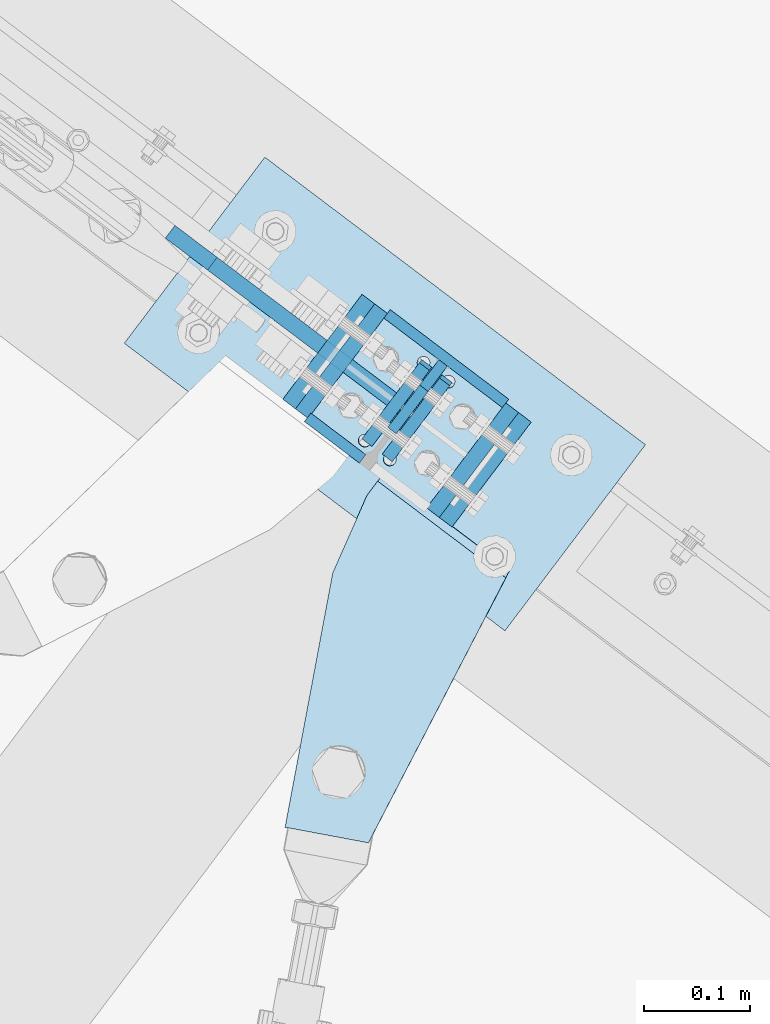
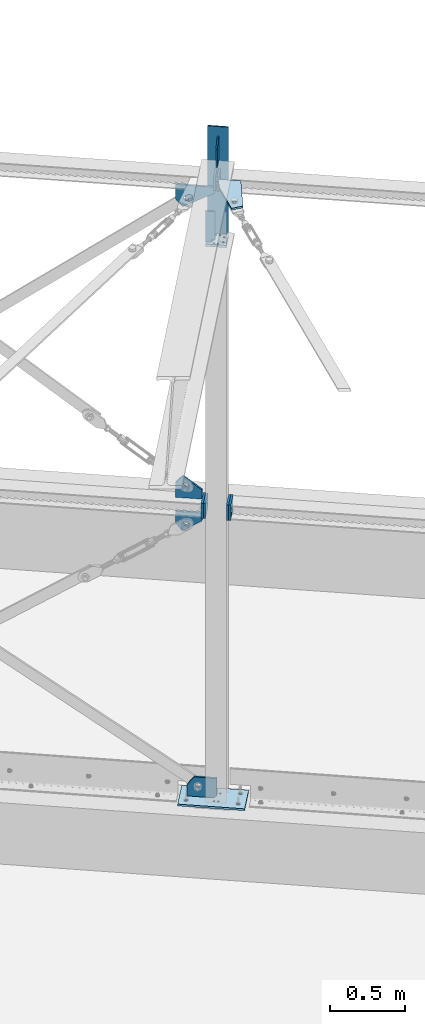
# One storey, part 68 of 476: 16 plates, 56 openings.
"""IFC2X3 building model written with IfcOpenShell, lengths in millimetres."""

from ifc_helpers import new_model, entity, si_unit, converted_unit, point, frame, frame_2d, origin, origin_with_axes, origin_2d_with_axis, place, context, project, spatial, polyline, circle_curve, line_curve, trimmed, segment, composite_curve, circle, outline, extrude, material, layer, layer_set, element, save


model = new_model("IFC2X3")

# Units and contexts
model_context = context("Model", 3, precision=1e-09, world=origin_with_axes())
ifc_project = project(units=[si_unit("LENGTHUNIT", "METRE", prefix="MILLI"), si_unit("AREAUNIT", "SQUARE_METRE"), si_unit("VOLUMEUNIT", "CUBIC_METRE"), converted_unit("PLANEANGLEUNIT", "DEGREE", entity("IfcPlaneAngleMeasure", 0.01745329), si_unit("PLANEANGLEUNIT", "RADIAN"), dimensions=[0, 0, 0, 0, 0, 0, 0])], contexts=[model_context])

# Site, building, storey
site_placement = place(None, origin_with_axes())
site = spatial("IfcSite", under=ifc_project, at=site_placement, Name="mKR Teilneubau & Sanierung BA1 - Ostfildern", CompositionType="ELEMENT")
building_placement = place(site_placement, origin_with_axes())
building = spatial("IfcBuilding", under=site, at=building_placement, Name="Struktur 1", CompositionType="ELEMENT")
storey_placement = place(building_placement, origin_with_axes())
storey = spatial("IfcBuildingStorey", under=building, at=storey_placement, Name="Default Storey", CompositionType="ELEMENT", Elevation=0.0)

# Plate, openings
ifc_material = material(Name="S235JR")
ifc_layer_1 = layer(ifc_material, 15.0)
ifc_layer_set_1 = layer_set([ifc_layer_1], Name="S235JR")
plate_1_placement = place(None, frame((16460.531467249, 5002.855324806, 5627.057972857), z_axis=(-0.018098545, -0.02396011, 0.999549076), x_axis=(-0.602462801, -0.797581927, -0.030027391)))
plate_1 = element("IfcPlate", 1, at=plate_1_placement, inside=storey, material=ifc_layer_set_1, Name="-", ObjectType="-", context=model_context, shape_type="SweptSolid", body=[
    extrude(outline(polyline([(0.0, 0.0), (65.954896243, 0.0), (321.261469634, 127.050274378), (285.61998654, 198.672036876), (1.572e-05, 149.999963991), (0.0, 0.0)])), origin_with_axes(), (0.0, 0.0, -1.0), 15.0),
])
opening_1_placement = place(plate_1_placement, frame((65.954896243, 0.0, 0.01), z_axis=(0.0, 0.0, 1.0), x_axis=(0.895271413, 0.445521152, 0.0)))
element("IfcOpeningElement", 2, at=opening_1_placement, cuts=plate_1, ObjectType="Opening", context=model_context, shape_type="SweptSolid", body=[
    extrude(outline(composite_curve([segment(trimmed(line_curve((0.0, 0.0), (1.0, 0.0), 41.13722238), [point((0.0, 0.0))], [point((41.13722238, 0.0))], True, "CARTESIAN"), True, "CONTINUOUS"), segment(trimmed(circle_curve(frame_2d((41.13722238, 175.0), x_axis=(-1.0, 0.0)), 175.0), [point((41.13722238, 0.0))], [point((-36.828979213, 18.327502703))], False, "CARTESIAN"), True, "CONTINUOUS"), segment(trimmed(line_curve((-36.828979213, 18.327502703), (0.895271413, -0.445521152), 41.13722238), [point((-36.828979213, 18.327502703))], [point((0.0, 0.0))], True, "CARTESIAN"), True, "CONTINUOUS")], self_intersect=False)), origin(), (0.0, 0.0, -1.0), 15.02),
])
opening_2_placement = place(plate_1_placement, frame((0.0, -0.000999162, 0.0), z_axis=(1.05e-07, 1.0, 0.0), x_axis=(1.0, -1.05e-07, 0.0)))
element("IfcOpeningElement", 3, at=opening_2_placement, cuts=plate_1, ObjectType="Opening", context=model_context, shape_type="SweptSolid", body=[
    extrude(outline(polyline([(0.0, 0.0), (8.0, 0.0), (0.0, 8.0), (0.0, 0.0)])), origin(), (0.0, 0.0, 1.0), 151.385232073),
])
opening_3_placement = place(plate_1_placement, frame((236.742211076, 129.669420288, -15.500002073), z_axis=(1.1668e-05, 5.806e-06, -1.0), x_axis=(-1.0, 0.0, -1.1668e-05)))
element("IfcOpeningElement", 4, at=opening_3_placement, cuts=plate_1, ObjectType="Opening", context=model_context, shape_type="SweptSolid", body=[
    extrude(circle(Radius=14.501, at=frame_2d((-12.982331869, 6.460499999), x_axis=(1.0, 0.0))), origin(), (0.0, 0.0, -1.0), 16.000000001),
])

plate_2_placement = place(None, frame((16471.982495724, 5080.903557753, 545.0), z_axis=(0.602734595, 0.797941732, 0.0), x_axis=(-0.797941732, 0.602734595, 0.0)))
plate_2 = element("IfcPlate", 5, at=plate_2_placement, inside=storey, material=ifc_layer_set_1, Name="-", ObjectType="-", context=model_context, shape_type="SweptSolid", body=[
    extrude(outline(polyline([(-17.154112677, 0.0), (179.999993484, 0.0), (179.999993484, 93.164694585), (133.615277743, 158.344892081), (-17.154119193, 158.344891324), (-17.154112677, 0.0)])), origin_with_axes(), (0.0, 0.0, -1.0), 15.0),
])
opening_4_placement = place(plate_2_placement, frame((91.921483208, 90.966259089, -15.5), z_axis=(0.0, 0.0, -1.0), x_axis=(-1.0, 0.0, 0.0)))
element("IfcOpeningElement", 6, at=opening_4_placement, cuts=plate_2, ObjectType="Opening", context=model_context, shape_type="SweptSolid", body=[
    extrude(circle(Radius=16.001, at=frame_2d((-16.001, 0.0), x_axis=(1.0, 0.0))), origin(), (0.0, 0.0, -1.0), 16.0),
])
opening_5_placement = place(plate_2_placement, frame((-17.154112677, 0.0, 0.01), z_axis=(0.0, 0.0, 1.0), x_axis=(1.0, 0.0, 0.0)))
element("IfcOpeningElement", 7, at=opening_5_placement, cuts=plate_2, ObjectType="Opening", context=model_context, shape_type="SweptSolid", body=[
    extrude(outline(polyline([(0.0, 0.0), (20.0, 0.0), (-8.23e-07, 20.0), (0.0, 0.0)])), origin(), (0.0, 0.0, -1.0), 15.02),
])

# Plate, opening
plate_3_placement = place(None, frame((16399.028819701, 5117.211602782, 5514.988683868), z_axis=(-0.602734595, -0.797941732, 0.0), x_axis=(-0.797941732, 0.602734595, 0.0)))
plate_3 = element("IfcPlate", 8, at=plate_3_placement, inside=storey, material=ifc_layer_set_1, Name="-", ObjectType="-", context=model_context, shape_type="SweptSolid", body=[
    extrude(outline(polyline([(-82.000010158, 0.0), (179.999993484, 0.0), (179.999993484, 115.705558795), (130.034880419, 178.183457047), (-82.000010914, 50.0), (-82.000010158, 0.0)])), origin_with_axes(), (0.0, 0.0, -1.0), 15.0),
])
opening_6_placement = place(plate_3_placement, frame((92.158013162, 109.47067545, 0.5), z_axis=(0.0, 0.0, 1.0), x_axis=(1.0, 0.0, 0.0)))
element("IfcOpeningElement", 9, at=opening_6_placement, cuts=plate_3, ObjectType="Opening", context=model_context, shape_type="SweptSolid", body=[
    extrude(circle(Radius=16.001, at=frame_2d((16.001, 0.0), x_axis=(1.0, 0.0))), origin(), (0.0, 0.0, -1.0), 16.0),
])

# Plate, openings
ifc_layer_2 = layer(ifc_material, 10.0)
ifc_layer_set_2 = layer_set([ifc_layer_2], Name="S235JR")
plate_4_placement = place(None, frame((16473.169797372, 5041.156852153, 5888.279672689), z_axis=(-0.797941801, 0.602734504, 0.0), x_axis=(0.602734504, 0.797941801, 0.0)))
plate_4 = element("IfcPlate", 10, at=plate_4_placement, inside=storey, material=ifc_layer_set_2, Name="-", ObjectType="-", context=model_context, shape_type="SweptSolid", body=[
    extrude(outline(polyline([(0.0, 0.0), (80.0, 0.0), (80.0, 197.595559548), (0.0, 200.0), (0.0, 0.0)])), origin_with_axes(), (0.0, 0.0, 1.0), 10.0),
])
opening_7_placement = place(plate_4_placement, frame((0.0, 0.0, -0.01), z_axis=(0.0, 0.0, 1.0), x_axis=(1.0, 0.0, 0.0)))
element("IfcOpeningElement", 11, at=opening_7_placement, cuts=plate_4, ObjectType="Opening", context=model_context, shape_type="SweptSolid", body=[
    extrude(outline(polyline([(0.0, 0.0), (50.0, 0.0), (0.0, 50.0), (0.0, 0.0)])), origin(), (0.0, 0.0, 1.0), 10.02),
])
opening_8_placement = place(plate_4_placement, frame((0.0, 0.0, -0.01), z_axis=(0.0, 0.0, 1.0), x_axis=(1.0, 0.0, 0.0)))
element("IfcOpeningElement", 12, at=opening_8_placement, cuts=plate_4, ObjectType="Opening", context=model_context, shape_type="SweptSolid", body=[
    extrude(outline(polyline([(80.0, 197.595559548), (60.009027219, 198.196398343), (80.0, 177.595559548), (80.0, 197.595559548)])), origin(), (0.0, 0.0, 1.0), 10.02),
])

# Plate, opening
plate_5_placement = place(None, frame((16408.069838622, 5129.180728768, 2855.000000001), z_axis=(-0.602734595, -0.797941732, 0.0), x_axis=(-0.797941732, 0.602734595, 0.0)))
plate_5 = element("IfcPlate", 13, at=plate_5_placement, inside=storey, material=ifc_layer_set_1, Name="-", ObjectType="-", context=model_context, shape_type="SweptSolid", body=[
    extrude(outline(polyline([(0.0, 0.0), (179.999993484, 0.0), (179.999993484, 93.164694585), (133.615277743, 158.344892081), (-6.516e-06, 63.25917368), (0.0, 0.0)])), origin_with_axes(), (0.0, 0.0, 1.0), 15.0),
])
opening_9_placement = place(plate_5_placement, frame((107.922483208, 90.966259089, 15.5), z_axis=(0.0, 0.0, -1.0), x_axis=(1.0, 0.0, 0.0)))
element("IfcOpeningElement", 14, at=opening_9_placement, cuts=plate_5, ObjectType="Opening", context=model_context, shape_type="SweptSolid", body=[
    extrude(circle(Radius=16.001, at=origin_2d_with_axis()), origin(), (0.0, 0.0, 1.0), 16.0),
])

plate_6_placement = place(None, frame((16399.028819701, 5117.211602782, 2969.000000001), z_axis=(0.602734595, 0.797941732, 0.0), x_axis=(-0.797941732, 0.602734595, 0.0)))
plate_6 = element("IfcPlate", 15, at=plate_6_placement, inside=storey, material=ifc_layer_set_1, Name="-", ObjectType="-", context=model_context, shape_type="SweptSolid", body=[
    extrude(outline(polyline([(0.0, 0.0), (179.999993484, 0.0), (179.999993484, 115.705558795), (130.034880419, 178.183457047), (-6.516e-06, 74.191361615), (0.0, 0.0)])), origin_with_axes(), (0.0, 0.0, 1.0), 15.0),
])
opening_10_placement = place(plate_6_placement, frame((108.159013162, 109.47067545, -0.5), z_axis=(0.0, 0.0, 1.0), x_axis=(1.0, 0.0, 0.0)))
element("IfcOpeningElement", 16, at=opening_10_placement, cuts=plate_6, ObjectType="Opening", context=model_context, shape_type="SweptSolid", body=[
    extrude(circle(Radius=16.001, at=origin_2d_with_axis()), origin(), (0.0, 0.0, 1.0), 16.0),
])

# Plate, openings
plate_7_placement = place(None, frame((16349.260407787, 5302.059895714, 545.0), z_axis=(0.0, 0.0, -1.0), x_axis=(0.797941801, -0.602734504, 0.0)))
plate_7 = element("IfcPlate", 17, at=plate_7_placement, inside=storey, material=ifc_layer_set_1, Name="Baseplate", ObjectType="Baseplate", context=model_context, shape_type="SweptSolid", body=[
    extrude(outline(polyline([(0.0, 0.0), (450.0, 0.0), (450.0, 220.0), (0.0, 220.0), (0.0, 0.0)])), origin_with_axes(), (0.0, 0.0, 1.0), 15.0),
])
opening_11_placement = place(plate_7_placement, frame((50.0, 170.0, 15.5), z_axis=(0.0, 0.0, -1.0), x_axis=(1.0, 0.0, 0.0)))
element("IfcOpeningElement", 18, at=opening_11_placement, cuts=plate_7, ObjectType="Opening", context=model_context, shape_type="SweptSolid", body=[
    extrude(circle(Radius=11.001, at=frame_2d((350.0, 120.0), x_axis=(1.0, 0.0))), origin(), (0.0, 0.0, 1.0), 16.0),
])
opening_12_placement = place(plate_7_placement, frame((50.0, 170.0, 15.5), z_axis=(0.0, 0.0, -1.0), x_axis=(1.0, 0.0, 0.0)))
element("IfcOpeningElement", 19, at=opening_12_placement, cuts=plate_7, ObjectType="Opening", context=model_context, shape_type="SweptSolid", body=[
    extrude(circle(Radius=11.001, at=frame_2d((0.0, 120.0), x_axis=(1.0, 0.0))), origin(), (0.0, 0.0, 1.0), 16.0),
])
opening_13_placement = place(plate_7_placement, frame((50.0, 170.0, 15.5), z_axis=(0.0, 0.0, -1.0), x_axis=(1.0, 0.0, 0.0)))
element("IfcOpeningElement", 20, at=opening_13_placement, cuts=plate_7, ObjectType="Opening", context=model_context, shape_type="SweptSolid", body=[
    extrude(circle(Radius=11.001, at=frame_2d((350.0, 0.0), x_axis=(1.0, 0.0))), origin(), (0.0, 0.0, 1.0), 16.0),
])
opening_14_placement = place(plate_7_placement, frame((50.0, 170.0, 15.5), z_axis=(0.0, 0.0, -1.0), x_axis=(1.0, 0.0, 0.0)))
element("IfcOpeningElement", 21, at=opening_14_placement, cuts=plate_7, ObjectType="Opening", context=model_context, shape_type="SweptSolid", body=[
    extrude(circle(Radius=11.001, at=origin_2d_with_axis()), origin(), (0.0, 0.0, 1.0), 16.0),
])
opening_15_placement = place(plate_7_placement, frame((265.87774808, 156.0, 15.5), z_axis=(0.0, 0.0, -1.0), x_axis=(0.0, 1.0, 0.0)))
element("IfcOpeningElement", 22, at=opening_15_placement, cuts=plate_7, ObjectType="Opening", context=model_context, shape_type="SweptSolid", body=[
    extrude(circle(Radius=6.001, at=origin_2d_with_axis()), origin(), (0.0, 0.0, 1.0), 16.0),
])
opening_16_placement = place(plate_7_placement, frame((265.87774808, 64.0, 15.5), z_axis=(0.0, 0.0, -1.0), x_axis=(0.0, 1.0, 0.0)))
element("IfcOpeningElement", 23, at=opening_16_placement, cuts=plate_7, ObjectType="Opening", context=model_context, shape_type="SweptSolid", body=[
    extrude(circle(Radius=6.001, at=origin_2d_with_axis()), origin(), (0.0, 0.0, 1.0), 16.0),
])
opening_17_placement = place(plate_7_placement, frame((236.37774808, 64.0, 15.5), z_axis=(0.0, 0.0, -1.0), x_axis=(0.0, 1.0, 0.0)))
element("IfcOpeningElement", 24, at=opening_17_placement, cuts=plate_7, ObjectType="Opening", context=model_context, shape_type="SweptSolid", body=[
    extrude(circle(Radius=6.001, at=origin_2d_with_axis()), origin(), (0.0, 0.0, 1.0), 16.0),
])
opening_18_placement = place(plate_7_placement, frame((236.37774808, 156.0, 15.5), z_axis=(0.0, 0.0, -1.0), x_axis=(0.0, 1.0, 0.0)))
element("IfcOpeningElement", 25, at=opening_18_placement, cuts=plate_7, ObjectType="Opening", context=model_context, shape_type="SweptSolid", body=[
    extrude(circle(Radius=6.001, at=origin_2d_with_axis()), origin(), (0.0, 0.0, 1.0), 16.0),
])

plate_8_placement = place(None, frame((16403.550132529, 5123.195558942, 2912.000000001), z_axis=(0.797941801, -0.602734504, 0.0), x_axis=(0.0, 0.0, -1.0)))
plate_8 = element("IfcPlate", 26, at=plate_8_placement, inside=storey, material=ifc_layer_set_1, Name="Endplate#1", ObjectType="Endplate#1", context=model_context, shape_type="SweptSolid", body=[
    extrude(outline(polyline([(-62.0, -62.0), (62.0, -62.0), (62.0, 62.0), (-62.0, 62.0), (-62.0, -62.0)])), origin_with_axes(), (0.0, 0.0, 1.0), 15.0),
])
opening_19_placement = place(plate_8_placement, frame((37.0, -14.5, 15.5), z_axis=(0.0, 0.0, -1.0), x_axis=(1.0, 0.0, 0.0)))
element("IfcOpeningElement", 27, at=opening_19_placement, cuts=plate_8, ObjectType="Opening", context=model_context, shape_type="SweptSolid", body=[
    extrude(circle(Radius=6.001, at=origin_2d_with_axis()), origin(), (0.0, 0.0, 1.0), 16.0),
])
opening_20_placement = place(plate_8_placement, frame((-37.0, -14.5, 15.5), z_axis=(0.0, 0.0, -1.0), x_axis=(1.0, 0.0, 0.0)))
element("IfcOpeningElement", 28, at=opening_20_placement, cuts=plate_8, ObjectType="Opening", context=model_context, shape_type="SweptSolid", body=[
    extrude(circle(Radius=6.001, at=origin_2d_with_axis()), origin(), (0.0, 0.0, 1.0), 16.0),
])
opening_21_placement = place(plate_8_placement, frame((-37.0, 14.5, 15.5), z_axis=(0.0, 0.0, -1.0), x_axis=(1.0, 0.0, 0.0)))
element("IfcOpeningElement", 29, at=opening_21_placement, cuts=plate_8, ObjectType="Opening", context=model_context, shape_type="SweptSolid", body=[
    extrude(circle(Radius=6.001, at=origin_2d_with_axis()), origin(), (0.0, 0.0, 1.0), 16.0),
])
opening_22_placement = place(plate_8_placement, frame((37.0, 14.5, 15.5), z_axis=(0.0, 0.0, -1.0), x_axis=(1.0, 0.0, 0.0)))
element("IfcOpeningElement", 30, at=opening_22_placement, cuts=plate_8, ObjectType="Opening", context=model_context, shape_type="SweptSolid", body=[
    extrude(circle(Radius=6.001, at=origin_2d_with_axis()), origin(), (0.0, 0.0, 1.0), 16.0),
])
opening_23_placement = place(plate_8_placement, frame((0.0, -30.0, 15.5), z_axis=(0.0, 0.0, -1.0), x_axis=(0.0, -1.0, 0.0)))
element("IfcOpeningElement", 31, at=opening_23_placement, cuts=plate_8, ObjectType="Opening", context=model_context, shape_type="SweptSolid", body=[
    extrude(circle(Radius=7.001, at=origin_2d_with_axis()), origin(), (0.0, 0.0, 1.0), 16.0),
])
opening_24_placement = place(plate_8_placement, frame((0.0, 30.0, 15.5), z_axis=(0.0, 0.0, -1.0), x_axis=(-1.0, 0.0, 0.0)))
element("IfcOpeningElement", 32, at=opening_24_placement, cuts=plate_8, ObjectType="Opening", context=model_context, shape_type="SweptSolid", body=[
    extrude(circle(Radius=7.001, at=origin_2d_with_axis()), origin(), (0.0, 0.0, 1.0), 16.0),
])

plate_9_placement = place(None, frame((16427.489013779, 5105.114354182, 2912.000000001), z_axis=(-0.797941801, 0.602734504, 0.0), x_axis=(0.602734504, 0.797941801, 0.0)))
plate_9 = element("IfcPlate", 33, at=plate_9_placement, inside=storey, material=ifc_layer_set_1, Name="T-plate", ObjectType="T-plate", context=model_context, shape_type="SweptSolid", body=[
    extrude(outline(polyline([(-62.0, -62.0), (62.0, -62.0), (62.0, 62.0), (-62.0, 62.0), (-62.0, -62.0)])), origin_with_axes(), (0.0, 0.0, 1.0), 15.0),
])
opening_25_placement = place(plate_9_placement, frame((-30.001040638, 0.0, -0.5), z_axis=(0.0, 0.0, 1.0), x_axis=(-1.0, 0.0, 0.0)))
element("IfcOpeningElement", 34, at=opening_25_placement, cuts=plate_9, ObjectType="Opening", context=model_context, shape_type="SweptSolid", body=[
    extrude(circle(Radius=7.001, at=origin_2d_with_axis()), origin(), (0.0, 0.0, 1.0), 16.0),
])
opening_26_placement = place(plate_9_placement, frame((29.998959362, 0.0, -0.5), z_axis=(0.0, 0.0, 1.0), x_axis=(0.0, -1.0, 0.0)))
element("IfcOpeningElement", 35, at=opening_26_placement, cuts=plate_9, ObjectType="Opening", context=model_context, shape_type="SweptSolid", body=[
    extrude(circle(Radius=7.001, at=origin_2d_with_axis()), origin(), (0.0, 0.0, 1.0), 16.0),
])

plate_10_placement = place(None, frame((16563.138479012, 5002.648639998, 2912.000000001), z_axis=(-0.797941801, 0.602734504, 0.0), x_axis=(0.0, 0.0, -1.0)))
plate_10 = element("IfcPlate", 36, at=plate_10_placement, inside=storey, material=ifc_layer_set_1, Name="Endplate#1", ObjectType="Endplate#1", context=model_context, shape_type="SweptSolid", body=[
    extrude(outline(polyline([(-62.0, -62.0), (62.0, -62.0), (62.0, 62.0), (-62.0, 62.0), (-62.0, -62.0)])), origin_with_axes(), (0.0, 0.0, 1.0), 15.0),
])
opening_27_placement = place(plate_10_placement, frame((37.0, 14.5, 15.5), z_axis=(0.0, 0.0, -1.0), x_axis=(-1.0, 0.0, 0.0)))
element("IfcOpeningElement", 37, at=opening_27_placement, cuts=plate_10, ObjectType="Opening", context=model_context, shape_type="SweptSolid", body=[
    extrude(circle(Radius=6.001, at=origin_2d_with_axis()), origin(), (0.0, 0.0, 1.0), 16.0),
])
opening_28_placement = place(plate_10_placement, frame((-37.0, 14.5, 15.5), z_axis=(0.0, 0.0, -1.0), x_axis=(-1.0, 0.0, 0.0)))
element("IfcOpeningElement", 38, at=opening_28_placement, cuts=plate_10, ObjectType="Opening", context=model_context, shape_type="SweptSolid", body=[
    extrude(circle(Radius=6.001, at=origin_2d_with_axis()), origin(), (0.0, 0.0, 1.0), 16.0),
])
opening_29_placement = place(plate_10_placement, frame((-37.0, -14.5, 15.5), z_axis=(0.0, 0.0, -1.0), x_axis=(-1.0, 0.0, 0.0)))
element("IfcOpeningElement", 39, at=opening_29_placement, cuts=plate_10, ObjectType="Opening", context=model_context, shape_type="SweptSolid", body=[
    extrude(circle(Radius=6.001, at=origin_2d_with_axis()), origin(), (0.0, 0.0, 1.0), 16.0),
])
opening_30_placement = place(plate_10_placement, frame((37.0, -14.5, 15.5), z_axis=(0.0, 0.0, -1.0), x_axis=(-1.0, 0.0, 0.0)))
element("IfcOpeningElement", 40, at=opening_30_placement, cuts=plate_10, ObjectType="Opening", context=model_context, shape_type="SweptSolid", body=[
    extrude(circle(Radius=6.001, at=origin_2d_with_axis()), origin(), (0.0, 0.0, 1.0), 16.0),
])
opening_31_placement = place(plate_10_placement, frame((0.0, -30.0, 15.5), z_axis=(0.0, 0.0, -1.0), x_axis=(0.0, -1.0, 0.0)))
element("IfcOpeningElement", 41, at=opening_31_placement, cuts=plate_10, ObjectType="Opening", context=model_context, shape_type="SweptSolid", body=[
    extrude(circle(Radius=7.001, at=origin_2d_with_axis()), origin(), (0.0, 0.0, 1.0), 16.0),
])
opening_32_placement = place(plate_10_placement, frame((0.0, 30.0, 15.5), z_axis=(0.0, 0.0, -1.0), x_axis=(-1.0, 0.0, 0.0)))
element("IfcOpeningElement", 42, at=opening_32_placement, cuts=plate_10, ObjectType="Opening", context=model_context, shape_type="SweptSolid", body=[
    extrude(circle(Radius=7.001, at=origin_2d_with_axis()), origin(), (0.0, 0.0, 1.0), 16.0),
])

plate_11_placement = place(None, frame((16539.20086588, 5020.731523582, 2912.000000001), z_axis=(0.797941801, -0.602734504, 0.0), x_axis=(-0.602734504, -0.797941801, 0.0)))
plate_11 = element("IfcPlate", 43, at=plate_11_placement, inside=storey, material=ifc_layer_set_1, Name="T-plate", ObjectType="T-plate", context=model_context, shape_type="SweptSolid", body=[
    extrude(outline(polyline([(-62.0, -62.0), (62.0, -62.0), (62.0, 62.0), (-62.0, 62.0), (-62.0, -62.0)])), origin_with_axes(), (0.0, 0.0, 1.0), 15.0),
])
opening_33_placement = place(plate_11_placement, frame((-29.998936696, 0.0, -0.5), z_axis=(0.0, 0.0, 1.0), x_axis=(-1.0, 0.0, 0.0)))
element("IfcOpeningElement", 44, at=opening_33_placement, cuts=plate_11, ObjectType="Opening", context=model_context, shape_type="SweptSolid", body=[
    extrude(circle(Radius=7.001, at=origin_2d_with_axis()), origin(), (0.0, 0.0, 1.0), 16.0),
])
opening_34_placement = place(plate_11_placement, frame((30.001063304, 0.0, -0.5), z_axis=(0.0, 0.0, 1.0), x_axis=(0.0, -1.0, 0.0)))
element("IfcOpeningElement", 45, at=opening_34_placement, cuts=plate_11, ObjectType="Opening", context=model_context, shape_type="SweptSolid", body=[
    extrude(circle(Radius=7.001, at=origin_2d_with_axis()), origin(), (0.0, 0.0, 1.0), 16.0),
])

ifc_layer_3 = layer(ifc_material, 12.0)
ifc_layer_set_3 = layer_set([ifc_layer_3], Name="S235JR")
plate_12_placement = place(None, frame((16514.120112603, 5093.710618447, 5635.311063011), z_axis=(0.797941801, -0.602734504, 0.0), x_axis=(-0.602462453, -0.797581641, -0.030041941)))
plate_12 = element("IfcPlate", 46, at=plate_12_placement, inside=storey, material=ifc_layer_set_3, Name="Endplate", ObjectType="Endplate", context=model_context, shape_type="SweptSolid", body=[
    extrude(outline(polyline([(0.0, 0.0), (90.0, 0.0), (90.0, 124.0), (0.0, 124.0), (0.0, 0.0)])), origin_with_axes(), (0.0, 0.0, 1.0), 12.0),
])
opening_35_placement = place(plate_12_placement, frame((59.5, 99.0, -0.5), z_axis=(0.0, 0.0, 1.0), x_axis=(0.0, -1.0, 0.0)))
element("IfcOpeningElement", 47, at=opening_35_placement, cuts=plate_12, ObjectType="Opening", context=model_context, shape_type="SweptSolid", body=[
    extrude(circle(Radius=6.001, at=origin_2d_with_axis()), origin(), (0.0, 0.0, 1.0), 13.0),
])
opening_36_placement = place(plate_12_placement, frame((59.5, 25.0, -0.5), z_axis=(0.0, 0.0, 1.0), x_axis=(0.0, -1.0, 0.0)))
element("IfcOpeningElement", 48, at=opening_36_placement, cuts=plate_12, ObjectType="Opening", context=model_context, shape_type="SweptSolid", body=[
    extrude(circle(Radius=6.001, at=origin_2d_with_axis()), origin(), (0.0, 0.0, 1.0), 13.0),
])
opening_37_placement = place(plate_12_placement, frame((30.5, 25.0, -0.5), z_axis=(0.0, 0.0, 1.0), x_axis=(0.0, -1.0, 0.0)))
element("IfcOpeningElement", 49, at=opening_37_placement, cuts=plate_12, ObjectType="Opening", context=model_context, shape_type="SweptSolid", body=[
    extrude(circle(Radius=6.001, at=origin_2d_with_axis()), origin(), (0.0, 0.0, 1.0), 13.0),
])
opening_38_placement = place(plate_12_placement, frame((30.5, 99.0, -0.5), z_axis=(0.0, 0.0, 1.0), x_axis=(0.0, -1.0, 0.0)))
element("IfcOpeningElement", 50, at=opening_38_placement, cuts=plate_12, ObjectType="Opening", context=model_context, shape_type="SweptSolid", body=[
    extrude(circle(Radius=6.001, at=origin_2d_with_axis()), origin(), (0.0, 0.0, 1.0), 13.0),
])
opening_39_placement = place(plate_12_placement, frame((20.0, 62.0, -0.5), z_axis=(0.0, 0.0, 1.0), x_axis=(0.0, -1.0, 0.0)))
element("IfcOpeningElement", 51, at=opening_39_placement, cuts=plate_12, ObjectType="Opening", context=model_context, shape_type="SweptSolid", body=[
    extrude(circle(Radius=7.001, at=origin_2d_with_axis()), origin(), (0.0, 0.0, 1.0), 13.0),
])
opening_40_placement = place(plate_12_placement, frame((70.0, 62.0, -0.5), z_axis=(0.0, 0.0, 1.0), x_axis=(0.0, -1.0, 0.0)))
element("IfcOpeningElement", 52, at=opening_40_placement, cuts=plate_12, ObjectType="Opening", context=model_context, shape_type="SweptSolid", body=[
    extrude(circle(Radius=7.001, at=origin_2d_with_axis()), origin(), (0.0, 0.0, 1.0), 13.0),
])

plate_13_placement = place(None, frame((16450.323192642, 5029.161088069, 5632.607288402), z_axis=(-0.797941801, 0.602734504, 0.0), x_axis=(0.602462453, 0.797581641, 0.030041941)))
plate_13 = element("IfcPlate", 53, at=plate_13_placement, inside=storey, material=ifc_layer_set_3, Name="Endplate", ObjectType="Endplate", context=model_context, shape_type="SweptSolid", body=[
    extrude(outline(polyline([(0.0, 0.0), (90.0, 0.0), (90.0, 124.0), (0.0, 124.0), (0.0, 0.0)])), origin_with_axes(), (0.0, 0.0, 1.0), 12.0),
])
opening_41_placement = place(plate_13_placement, frame((30.5, 99.0, -0.5), z_axis=(0.0, 0.0, 1.0), x_axis=(0.0, 1.0, 0.0)))
element("IfcOpeningElement", 54, at=opening_41_placement, cuts=plate_13, ObjectType="Opening", context=model_context, shape_type="SweptSolid", body=[
    extrude(circle(Radius=6.001, at=origin_2d_with_axis()), origin(), (0.0, 0.0, 1.0), 13.0),
])
opening_42_placement = place(plate_13_placement, frame((30.5, 25.0, -0.5), z_axis=(0.0, 0.0, 1.0), x_axis=(0.0, 1.0, 0.0)))
element("IfcOpeningElement", 55, at=opening_42_placement, cuts=plate_13, ObjectType="Opening", context=model_context, shape_type="SweptSolid", body=[
    extrude(circle(Radius=6.001, at=origin_2d_with_axis()), origin(), (0.0, 0.0, 1.0), 13.0),
])
opening_43_placement = place(plate_13_placement, frame((59.5, 25.0, -0.5), z_axis=(0.0, 0.0, 1.0), x_axis=(0.0, 1.0, 0.0)))
element("IfcOpeningElement", 56, at=opening_43_placement, cuts=plate_13, ObjectType="Opening", context=model_context, shape_type="SweptSolid", body=[
    extrude(circle(Radius=6.001, at=origin_2d_with_axis()), origin(), (0.0, 0.0, 1.0), 13.0),
])
opening_44_placement = place(plate_13_placement, frame((59.5, 99.0, -0.5), z_axis=(0.0, 0.0, 1.0), x_axis=(0.0, 1.0, 0.0)))
element("IfcOpeningElement", 57, at=opening_44_placement, cuts=plate_13, ObjectType="Opening", context=model_context, shape_type="SweptSolid", body=[
    extrude(circle(Radius=6.001, at=origin_2d_with_axis()), origin(), (0.0, 0.0, 1.0), 13.0),
])
opening_45_placement = place(plate_13_placement, frame((69.99999592, 62.0, 12.5), z_axis=(0.0, 0.0, -1.0), x_axis=(0.0, -1.0, 0.0)))
element("IfcOpeningElement", 58, at=opening_45_placement, cuts=plate_13, ObjectType="Opening", context=model_context, shape_type="SweptSolid", body=[
    extrude(circle(Radius=7.001, at=origin_2d_with_axis()), origin(), (0.0, 0.0, 1.0), 13.0),
])
opening_46_placement = place(plate_13_placement, frame((19.99999592, 62.0, 12.5), z_axis=(0.0, 0.0, -1.0), x_axis=(0.0, -1.0, 0.0)))
element("IfcOpeningElement", 59, at=opening_46_placement, cuts=plate_13, ObjectType="Opening", context=model_context, shape_type="SweptSolid", body=[
    extrude(circle(Radius=7.001, at=origin_2d_with_axis()), origin(), (0.0, 0.0, 1.0), 13.0),
])

# Plate
plate_14_placement = place(None, frame((16573.255365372, 5065.815235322, 5095.440131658), z_axis=(0.602734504, 0.797941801, 0.0), x_axis=(-0.797941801, 0.602734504, 0.0)))
element("IfcPlate", 60, at=plate_14_placement, inside=storey, material=ifc_layer_set_2, Name="Coverplate", ObjectType="Coverplate", context=model_context, shape_type="SweptSolid", body=[
    extrude(outline(polyline([(0.0, 0.0), (140.0, 0.0), (140.0, 870.270938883), (0.0, 870.270938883), (0.0, 0.0)])), origin_with_axes(), (0.0, 0.0, 1.0), 10.0),
])

# Plate, openings
ifc_layer_4 = layer(ifc_material, 20.0)
ifc_layer_set_4 = layer_set([ifc_layer_4], Name="S235JR")
plate_15_placement = place(None, frame((16576.270398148, 5069.806745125, 5070.581445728), z_axis=(-0.018107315, -0.023971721, 0.999548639), x_axis=(-0.797941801, 0.602734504, 0.0)))
plate_15 = element("IfcPlate", 61, at=plate_15_placement, inside=storey, material=ifc_layer_set_4, Name="Endplate", ObjectType="Endplate", context=model_context, shape_type="SweptSolid", body=[
    extrude(outline(polyline([(0.0, 0.0), (140.0, 0.0), (140.0, 123.060058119), (0.0, 123.060058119), (0.0, 0.0)])), origin_with_axes(), (0.0, 0.0, 1.0), 20.0),
])
opening_47_placement = place(plate_15_placement, frame((55.25, 107.556219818, 20.5), z_axis=(0.0, 0.0, -1.0), x_axis=(0.0, -1.0, 0.0)))
element("IfcOpeningElement", 62, at=opening_47_placement, cuts=plate_15, ObjectType="Opening", context=model_context, shape_type="SweptSolid", body=[
    extrude(circle(Radius=6.001, at=origin_2d_with_axis()), origin(), (0.0, 0.0, 1.0), 21.0),
])
opening_48_placement = place(plate_15_placement, frame((55.25, 15.503838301, 20.5), z_axis=(0.0, 0.0, -1.0), x_axis=(0.0, -1.0, 0.0)))
element("IfcOpeningElement", 63, at=opening_48_placement, cuts=plate_15, ObjectType="Opening", context=model_context, shape_type="SweptSolid", body=[
    extrude(circle(Radius=6.001, at=origin_2d_with_axis()), origin(), (0.0, 0.0, 1.0), 21.0),
])
opening_49_placement = place(plate_15_placement, frame((84.75, 15.503838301, 20.5), z_axis=(0.0, 0.0, -1.0), x_axis=(0.0, -1.0, 0.0)))
element("IfcOpeningElement", 64, at=opening_49_placement, cuts=plate_15, ObjectType="Opening", context=model_context, shape_type="SweptSolid", body=[
    extrude(circle(Radius=6.001, at=origin_2d_with_axis()), origin(), (0.0, 0.0, 1.0), 21.0),
])
opening_50_placement = place(plate_15_placement, frame((84.75, 107.556219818, 20.5), z_axis=(0.0, 0.0, -1.0), x_axis=(0.0, -1.0, 0.0)))
element("IfcOpeningElement", 65, at=opening_50_placement, cuts=plate_15, ObjectType="Opening", context=model_context, shape_type="SweptSolid", body=[
    extrude(circle(Radius=6.001, at=origin_2d_with_axis()), origin(), (0.0, 0.0, 1.0), 21.0),
])
opening_51_placement = place(plate_15_placement, frame((17.999, 34.03, -0.5), z_axis=(0.0, 0.0, -1.0), x_axis=(-1.0, 0.0, 0.0)))
element("IfcOpeningElement", 66, at=opening_51_placement, cuts=plate_15, ObjectType="Opening", context=model_context, shape_type="SweptSolid", body=[
    extrude(circle(Radius=7.001, at=frame_2d((-7.001, 0.0), x_axis=(1.0, 0.0))), origin(), (0.0, 0.0, -1.0), 21.0),
])
opening_52_placement = place(plate_15_placement, frame((107.999, 34.03, -0.5), z_axis=(0.0, 0.0, -1.0), x_axis=(-1.0, 0.0, 0.0)))
element("IfcOpeningElement", 67, at=opening_52_placement, cuts=plate_15, ObjectType="Opening", context=model_context, shape_type="SweptSolid", body=[
    extrude(circle(Radius=7.001, at=frame_2d((-7.001, 0.0), x_axis=(1.0, 0.0))), origin(), (0.0, 0.0, -1.0), 21.0),
])
opening_53_placement = place(plate_15_placement, frame((107.999, 89.03, -0.5), z_axis=(0.0, 0.0, -1.0), x_axis=(-1.0, 0.0, 0.0)))
element("IfcOpeningElement", 68, at=opening_53_placement, cuts=plate_15, ObjectType="Opening", context=model_context, shape_type="SweptSolid", body=[
    extrude(circle(Radius=7.001, at=frame_2d((-7.001, 0.0), x_axis=(1.0, 0.0))), origin(), (0.0, 0.0, -1.0), 21.0),
])
opening_54_placement = place(plate_15_placement, frame((17.999, 89.03, -0.5), z_axis=(0.0, 0.0, -1.0), x_axis=(-1.0, 0.0, 0.0)))
element("IfcOpeningElement", 69, at=opening_54_placement, cuts=plate_15, ObjectType="Opening", context=model_context, shape_type="SweptSolid", body=[
    extrude(circle(Radius=7.001, at=frame_2d((-7.001, 0.0), x_axis=(1.0, 0.0))), origin(), (0.0, 0.0, -1.0), 21.0),
])

plate_16_placement = place(None, frame((16392.636572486, 5060.633376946, 5107.553116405), z_axis=(-0.602734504, -0.797941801, 0.0), x_axis=(0.797941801, -0.602734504, 0.0)))
plate_16 = element("IfcPlate", 70, at=plate_16_placement, inside=storey, material=ifc_layer_set_2, Name="Stiffener#2", ObjectType="Stiffener#2", context=model_context, shape_type="SweptSolid", body=[
    extrude(outline(polyline([(0.0, 0.0), (65.0, 0.0), (65.0, 250.0), (0.0, 250.0), (0.0, 0.0)])), origin_with_axes(), (0.0, 0.0, 1.0), 10.0),
])
opening_55_placement = place(plate_16_placement, frame((0.0, 0.0, -0.01), z_axis=(0.0, 0.0, 1.0), x_axis=(1.0, 0.0, 0.0)))
element("IfcOpeningElement", 71, at=opening_55_placement, cuts=plate_16, ObjectType="Opening", context=model_context, shape_type="SweptSolid", body=[
    extrude(outline(composite_curve([segment(trimmed(line_curve((65.0, 0.0), (0.0, 1.0), 25.0), [point((65.0, 0.0))], [point((65.0, 25.0))], True, "CARTESIAN"), True, "CONTINUOUS"), segment(trimmed(circle_curve(frame_2d((40.0, 25.0), x_axis=(-1.0, 0.0)), 25.0), [point((65.0, 25.0))], [point((40.0, 0.0))], False, "CARTESIAN"), True, "CONTINUOUS"), segment(trimmed(line_curve((40.0, 0.0), (1.0, 0.0), 25.0), [point((40.0, 0.0))], [point((65.0, 0.0))], True, "CARTESIAN"), True, "CONTINUOUS")], self_intersect=False)), origin(), (0.0, 0.0, 1.0), 10.02),
])
opening_56_placement = place(plate_16_placement, frame((41.0, 22.198767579, -0.5), z_axis=(0.0, 0.0, 1.0), x_axis=(0.0, 1.0, 0.0)))
element("IfcOpeningElement", 72, at=opening_56_placement, cuts=plate_16, ObjectType="Opening", context=model_context, shape_type="SweptSolid", body=[
    extrude(circle(Radius=7.001, at=frame_2d((-7.0, -7.0), x_axis=(1.0, 0.0))), origin(), (0.0, 0.0, 1.0), 11.0),
])

save(model, "model.ifc")
